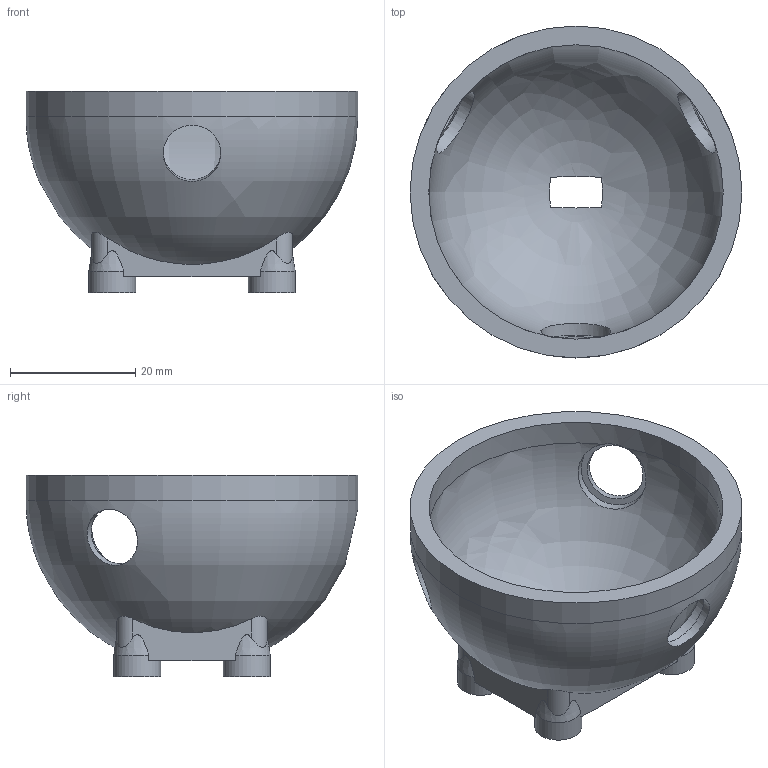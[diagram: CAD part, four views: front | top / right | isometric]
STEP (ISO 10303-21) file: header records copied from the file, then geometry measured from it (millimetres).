
FILE_DESCRIPTION(('Open CASCADE Model'),'2;1');
FILE_NAME('Open CASCADE Shape Model','2026-05-31T19:42:46',('Author'),( 'Open CASCADE'),'Open CASCADE STEP processor 7.6','Open CASCADE 7.6' ,'Unknown');
FILE_SCHEMA(('AP242_MANAGED_MODEL_BASED_3D_ENGINEERING_MIM_LF. {1 0 10303 442 1 1 4 }'));
Length unit declared in the file: millimetre
Products named in the file (1): Open CASCADE STEP translator 7.6 7
Bounding box: 53 x 53 x 32.1 mm (x, y, z)
Volume: 14295.3 mm3; surface area: 10449 mm2
Topology: 1 solids, 1 shells, 56 faces, 147 edges, 98 vertices
Faces by surface type: cylinder 24, plane 22, bspline 4, cone 4, revolution 2
Full cylindrical faces by diameter (mm): 3.5 x4, 7.5 x4, 9.2 x3, 11.2 x3, 47 x1, 53 x1
Entity records: 7664 total; most frequent: CARTESIAN_POINT 4837, DIRECTION 486, ORIENTED_EDGE 294, PCURVE 294, DEFINITIONAL_REPRESENTATION 294, LINE 236, VECTOR 236, EDGE_CURVE 147
